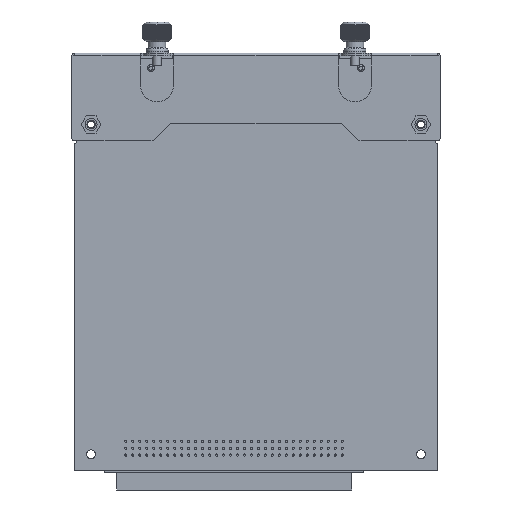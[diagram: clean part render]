
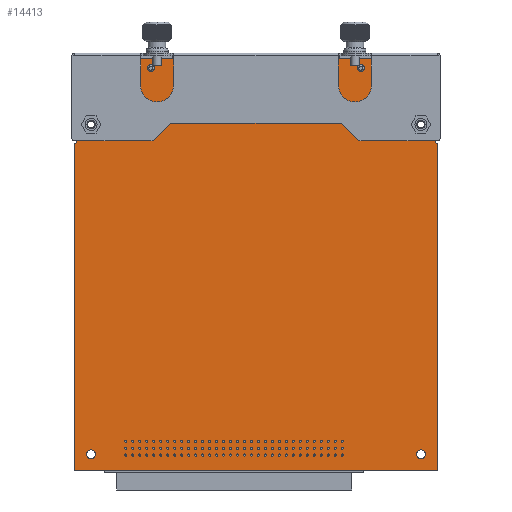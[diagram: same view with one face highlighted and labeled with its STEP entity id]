
A CAD part, front view. The second image highlights one B-rep face of the part: STEP entity #14413.
In plain terms, the highlighted planar face has unit normal (0, -1, 0) as drawn and (0, 0, 1) by its records, which use the part's own axes.
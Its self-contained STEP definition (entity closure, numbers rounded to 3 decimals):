
#14044=DIRECTION('',(0.,-1.,0.));
#14045=VECTOR('',#14044,119.);
#14046=CARTESIAN_POINT('',(-6.,126.,1.6));
#14047=LINE('',#14046,#14045);
#14048=DIRECTION('',(-1.,0.,0.));
#14049=VECTOR('',#14048,132.);
#14050=CARTESIAN_POINT('',(126.,126.,1.6));
#14051=LINE('',#14050,#14049);
#14052=DIRECTION('',(0.,1.,0.));
#14053=VECTOR('',#14052,119.);
#14054=CARTESIAN_POINT('',(126.,7.,1.6));
#14055=LINE('',#14054,#14053);
#14056=CARTESIAN_POINT('',(127.,5.268,1.6));
#14057=DIRECTION('',(0.,0.,-1.));
#14058=DIRECTION('',(-1.,0.,0.));
#14059=AXIS2_PLACEMENT_3D('',#14056,#14057,#14058);
#14061=DIRECTION('',(0.,1.,0.));
#14062=VECTOR('',#14061,29.268);
#14063=CARTESIAN_POINT('',(125.,-24.,1.6));
#14064=LINE('',#14063,#14062);
#14065=DIRECTION('',(1.,0.,0.));
#14066=VECTOR('',#14065,130.);
#14067=CARTESIAN_POINT('',(-5.,-24.,1.6));
#14068=LINE('',#14067,#14066);
#14069=DIRECTION('',(0.,-1.,0.));
#14070=VECTOR('',#14069,29.268);
#14071=CARTESIAN_POINT('',(-5.,5.268,1.6));
#14072=LINE('',#14071,#14070);
#14073=CARTESIAN_POINT('',(-7.,5.268,1.6));
#14074=DIRECTION('',(0.,0.,-1.));
#14075=DIRECTION('',(0.5,0.866,0.));
#14076=AXIS2_PLACEMENT_3D('',#14073,#14074,#14075);
#14078=CARTESIAN_POINT('',(120.,120.,1.6));
#14079=DIRECTION('',(0.,0.,-1.));
#14080=DIRECTION('',(-1.,0.,0.));
#14081=AXIS2_PLACEMENT_3D('',#14078,#14079,#14080);
#14083=CARTESIAN_POINT('',(120.,120.,1.6));
#14084=DIRECTION('',(0.,0.,-1.));
#14085=DIRECTION('',(1.,0.,0.));
#14086=AXIS2_PLACEMENT_3D('',#14083,#14084,#14085);
#14088=CARTESIAN_POINT('',(0.,120.,1.6));
#14089=DIRECTION('',(0.,0.,-1.));
#14090=DIRECTION('',(-1.,0.,0.));
#14091=AXIS2_PLACEMENT_3D('',#14088,#14089,#14090);
#14093=CARTESIAN_POINT('',(0.,120.,1.6));
#14094=DIRECTION('',(0.,0.,-1.));
#14095=DIRECTION('',(1.,0.,0.));
#14096=AXIS2_PLACEMENT_3D('',#14093,#14094,#14095);
#14098=CARTESIAN_POINT('',(0.,0.,1.6));
#14099=DIRECTION('',(0.,0.,-1.));
#14100=DIRECTION('',(-1.,0.,0.));
#14101=AXIS2_PLACEMENT_3D('',#14098,#14099,#14100);
#14103=CARTESIAN_POINT('',(0.,0.,1.6));
#14104=DIRECTION('',(0.,0.,-1.));
#14105=DIRECTION('',(1.,0.,0.));
#14106=AXIS2_PLACEMENT_3D('',#14103,#14104,#14105);
#14108=CARTESIAN_POINT('',(120.,0.,1.6));
#14109=DIRECTION('',(0.,0.,-1.));
#14110=DIRECTION('',(-1.,0.,0.));
#14111=AXIS2_PLACEMENT_3D('',#14108,#14109,#14110);
#14113=CARTESIAN_POINT('',(120.,0.,1.6));
#14114=DIRECTION('',(0.,0.,-1.));
#14115=DIRECTION('',(1.,0.,0.));
#14116=AXIS2_PLACEMENT_3D('',#14113,#14114,#14115);
#14166=CARTESIAN_POINT('',(-6.,126.,1.6));
#14167=CARTESIAN_POINT('',(-6.,7.,1.6));
#14168=VERTEX_POINT('',#14166);
#14169=VERTEX_POINT('',#14167);
#14170=CARTESIAN_POINT('',(-5.,5.268,1.6));
#14171=VERTEX_POINT('',#14170);
#14172=CARTESIAN_POINT('',(-5.,-24.,1.6));
#14173=VERTEX_POINT('',#14172);
#14174=CARTESIAN_POINT('',(125.,-24.,1.6));
#14175=VERTEX_POINT('',#14174);
#14176=CARTESIAN_POINT('',(125.,5.268,1.6));
#14177=VERTEX_POINT('',#14176);
#14178=CARTESIAN_POINT('',(126.,7.,1.6));
#14179=VERTEX_POINT('',#14178);
#14180=CARTESIAN_POINT('',(126.,126.,1.6));
#14181=VERTEX_POINT('',#14180);
#14198=CARTESIAN_POINT('',(118.4,120.,1.6));
#14199=CARTESIAN_POINT('',(121.6,120.,1.6));
#14200=VERTEX_POINT('',#14198);
#14201=VERTEX_POINT('',#14199);
#14202=CARTESIAN_POINT('',(-1.6,120.,1.6));
#14203=CARTESIAN_POINT('',(1.6,120.,1.6));
#14204=VERTEX_POINT('',#14202);
#14205=VERTEX_POINT('',#14203);
#14206=CARTESIAN_POINT('',(-1.6,0.,1.6));
#14207=CARTESIAN_POINT('',(1.6,0.,1.6));
#14208=VERTEX_POINT('',#14206);
#14209=VERTEX_POINT('',#14207);
#14210=CARTESIAN_POINT('',(118.4,0.,1.6));
#14211=CARTESIAN_POINT('',(121.6,0.,1.6));
#14212=VERTEX_POINT('',#14210);
#14213=VERTEX_POINT('',#14211);
#14374=CARTESIAN_POINT('',(0.,0.,1.6));
#14375=DIRECTION('',(0.,0.,1.));
#14376=DIRECTION('',(1.,0.,0.));
#14377=AXIS2_PLACEMENT_3D('',#14374,#14375,#14376);
#14378=PLANE('',#14377);
#14379=ORIENTED_EDGE('',*,*,#14270,.F.);
#14380=ORIENTED_EDGE('',*,*,#14285,.F.);
#14381=ORIENTED_EDGE('',*,*,#14299,.F.);
#14382=ORIENTED_EDGE('',*,*,#14313,.F.);
#14383=ORIENTED_EDGE('',*,*,#14327,.F.);
#14384=ORIENTED_EDGE('',*,*,#14341,.F.);
#14385=ORIENTED_EDGE('',*,*,#14355,.F.);
#14386=ORIENTED_EDGE('',*,*,#14368,.F.);
#14387=EDGE_LOOP('',(#14379,#14380,#14381,#14382,#14383,#14384,#14385,#14386));
#14388=FACE_OUTER_BOUND('',#14387,.F.);
#14390=ORIENTED_EDGE('',*,*,#14389,.F.);
#14392=ORIENTED_EDGE('',*,*,#14391,.F.);
#14393=EDGE_LOOP('',(#14390,#14392));
#14394=FACE_BOUND('',#14393,.F.);
#14396=ORIENTED_EDGE('',*,*,#14395,.F.);
#14398=ORIENTED_EDGE('',*,*,#14397,.F.);
#14399=EDGE_LOOP('',(#14396,#14398));
#14400=FACE_BOUND('',#14399,.F.);
#14402=ORIENTED_EDGE('',*,*,#14401,.F.);
#14404=ORIENTED_EDGE('',*,*,#14403,.F.);
#14405=EDGE_LOOP('',(#14402,#14404));
#14406=FACE_BOUND('',#14405,.F.);
#14408=ORIENTED_EDGE('',*,*,#14407,.F.);
#14410=ORIENTED_EDGE('',*,*,#14409,.F.);
#14411=EDGE_LOOP('',(#14408,#14410));
#14412=FACE_BOUND('',#14411,.F.);
#14413=ADVANCED_FACE('',(#14388,#14394,#14400,#14406,#14412),#14378,.T.);
#14060=CIRCLE('',#14059,2.);
#14077=CIRCLE('',#14076,2.);
#14082=CIRCLE('',#14081,1.6);
#14087=CIRCLE('',#14086,1.6);
#14092=CIRCLE('',#14091,1.6);
#14097=CIRCLE('',#14096,1.6);
#14102=CIRCLE('',#14101,1.6);
#14107=CIRCLE('',#14106,1.6);
#14112=CIRCLE('',#14111,1.6);
#14117=CIRCLE('',#14116,1.6);
#14270=EDGE_CURVE('',#14168,#14169,#14047,.T.);
#14285=EDGE_CURVE('',#14181,#14168,#14051,.T.);
#14299=EDGE_CURVE('',#14179,#14181,#14055,.T.);
#14313=EDGE_CURVE('',#14177,#14179,#14060,.T.);
#14327=EDGE_CURVE('',#14175,#14177,#14064,.T.);
#14341=EDGE_CURVE('',#14173,#14175,#14068,.T.);
#14355=EDGE_CURVE('',#14171,#14173,#14072,.T.);
#14368=EDGE_CURVE('',#14169,#14171,#14077,.T.);
#14389=EDGE_CURVE('',#14200,#14201,#14082,.T.);
#14391=EDGE_CURVE('',#14201,#14200,#14087,.T.);
#14395=EDGE_CURVE('',#14204,#14205,#14092,.T.);
#14397=EDGE_CURVE('',#14205,#14204,#14097,.T.);
#14401=EDGE_CURVE('',#14208,#14209,#14102,.T.);
#14403=EDGE_CURVE('',#14209,#14208,#14107,.T.);
#14407=EDGE_CURVE('',#14212,#14213,#14112,.T.);
#14409=EDGE_CURVE('',#14213,#14212,#14117,.T.);
